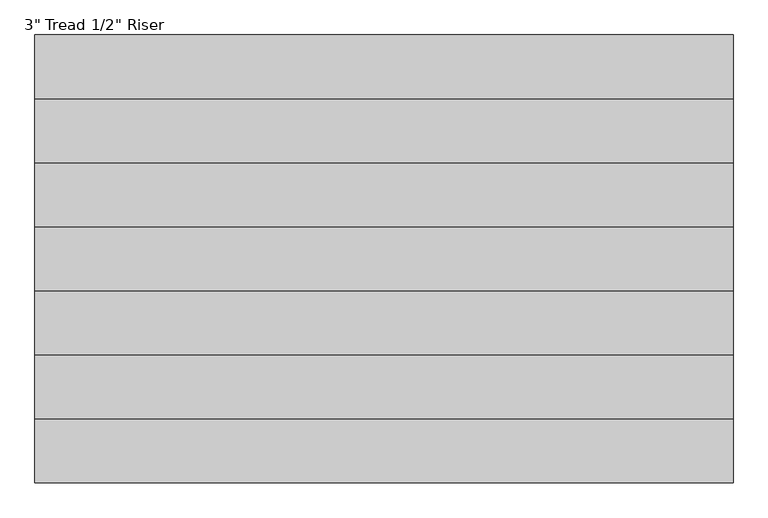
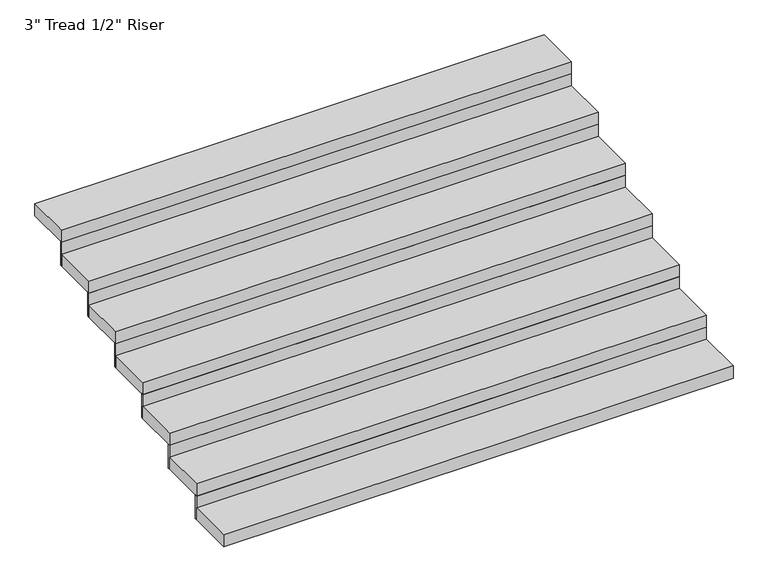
"""IFC4 building model written with IfcOpenShell, lengths in millimetres: stair flight geometry."""

from ifc_helpers import new_model, si_unit, frame, origin, place, context, project, spatial, polyline, outline, extrude, source, transform, mapped, element, save


def stair_flight_1baaeb33(model_context):
    return source(origin(), model_context, "Body", "SweptSolid", [
        extrude(outline(polyline([(23178.0025234, 188500.1414421), (26226.0025234, 188500.1414421), (26226.0025234, 188220.7414421), (23178.0025234, 188220.7414421), (23178.0025234, 188500.1414421)])), frame((0.0, 0.0, 293878.0), z_axis=(0.0, 0.0, 1.0), x_axis=(1.0, 0.0, 0.0)), (0.0, 0.0, 1.0), 76.2),
        extrude(outline(polyline([(26226.0025234, 188512.8414421), (26226.0025234, 188500.1414421), (23178.0025234, 188500.1414421), (23178.0025234, 188512.8414421), (26226.0025234, 188512.8414421)])), frame((0.0, 0.0, 293878.0), z_axis=(0.0, 0.0, 1.0), x_axis=(1.0, 0.0, 0.0)), (0.0, 0.0, 1.0), 151.3416667),
        extrude(outline(polyline([(23178.0025234, 188779.5414421), (26226.0025234, 188779.5414421), (26226.0025234, 188500.1414421), (23178.0025234, 188500.1414421), (23178.0025234, 188779.5414421)])), frame((0.0, 0.0, 294029.3416667), z_axis=(0.0, 0.0, 1.0), x_axis=(1.0, 0.0, 0.0)), (0.0, 0.0, 1.0), 76.2),
        extrude(outline(polyline([(26226.0025234, 188792.2414421), (26226.0025234, 188779.5414421), (23178.0025234, 188779.5414421), (23178.0025234, 188792.2414421), (26226.0025234, 188792.2414421)])), frame((0.0, 0.0, 294029.3416667), z_axis=(0.0, 0.0, 1.0), x_axis=(1.0, 0.0, 0.0)), (0.0, 0.0, 1.0), 151.3416667),
        extrude(outline(polyline([(23178.0025234, 189058.9414421), (26226.0025234, 189058.9414421), (26226.0025234, 188779.5414421), (23178.0025234, 188779.5414421), (23178.0025234, 189058.9414421)])), frame((0.0, 0.0, 294180.6833333), z_axis=(0.0, 0.0, 1.0), x_axis=(1.0, 0.0, 0.0)), (0.0, 0.0, 1.0), 76.2),
        extrude(outline(polyline([(26226.0025234, 189071.6414421), (26226.0025234, 189058.9414421), (23178.0025234, 189058.9414421), (23178.0025234, 189071.6414421), (26226.0025234, 189071.6414421)])), frame((0.0, 0.0, 294180.6833333), z_axis=(0.0, 0.0, 1.0), x_axis=(1.0, 0.0, 0.0)), (0.0, 0.0, 1.0), 151.3416667),
        extrude(outline(polyline([(23178.0025234, 189338.3414421), (26226.0025234, 189338.3414421), (26226.0025234, 189058.9414421), (23178.0025234, 189058.9414421), (23178.0025234, 189338.3414421)])), frame((0.0, 0.0, 294332.025), z_axis=(0.0, 0.0, 1.0), x_axis=(1.0, 0.0, 0.0)), (0.0, 0.0, 1.0), 76.2),
        extrude(outline(polyline([(26226.0025234, 189351.0414421), (26226.0025234, 189338.3414421), (23178.0025234, 189338.3414421), (23178.0025234, 189351.0414421), (26226.0025234, 189351.0414421)])), frame((0.0, 0.0, 294332.025), z_axis=(0.0, 0.0, 1.0), x_axis=(1.0, 0.0, 0.0)), (0.0, 0.0, 1.0), 151.3416667),
        extrude(outline(polyline([(23178.0025234, 189617.7414421), (26226.0025234, 189617.7414421), (26226.0025234, 189338.3414421), (23178.0025234, 189338.3414421), (23178.0025234, 189617.7414421)])), frame((0.0, 0.0, 294483.3666667), z_axis=(0.0, 0.0, 1.0), x_axis=(1.0, 0.0, 0.0)), (0.0, 0.0, 1.0), 76.2),
        extrude(outline(polyline([(26226.0025234, 189630.4414421), (26226.0025234, 189617.7414421), (23178.0025234, 189617.7414421), (23178.0025234, 189630.4414421), (26226.0025234, 189630.4414421)])), frame((0.0, 0.0, 294483.3666667), z_axis=(0.0, 0.0, 1.0), x_axis=(1.0, 0.0, 0.0)), (0.0, 0.0, 1.0), 151.3416667),
        extrude(outline(polyline([(23178.0025234, 189897.1414421), (26226.0025234, 189897.1414421), (26226.0025234, 189617.7414421), (23178.0025234, 189617.7414421), (23178.0025234, 189897.1414421)])), frame((0.0, 0.0, 294634.7083333), z_axis=(0.0, 0.0, 1.0), x_axis=(1.0, 0.0, 0.0)), (0.0, 0.0, 1.0), 76.2),
        extrude(outline(polyline([(26226.0025234, 189909.8414421), (26226.0025234, 189897.1414421), (23178.0025234, 189897.1414421), (23178.0025234, 189909.8414421), (26226.0025234, 189909.8414421)])), frame((0.0, 0.0, 294634.7083333), z_axis=(0.0, 0.0, 1.0), x_axis=(1.0, 0.0, 0.0)), (0.0, 0.0, 1.0), 151.3416667),
        extrude(outline(polyline([(23178.0025234, 190176.5414421), (26226.0025234, 190176.5414421), (26226.0025234, 189897.1414421), (23178.0025234, 189897.1414421), (23178.0025234, 190176.5414421)])), frame((0.0, 0.0, 294786.05), z_axis=(0.0, 0.0, 1.0), x_axis=(1.0, 0.0, 0.0)), (0.0, 0.0, 1.0), 76.2),
    ])


if __name__ == "__main__":
    model = new_model("IFC4")
    model_context = context("Model", 3, world=origin())
    ifc_project = project(units=[si_unit("LENGTHUNIT", "METRE", prefix="MILLI")], contexts=[model_context])
    site = spatial("IfcSite", under=ifc_project)
    building = spatial("IfcBuilding", under=site)
    placement = place(None, origin())
    stair_flight_shape = stair_flight_1baaeb33(model_context)
    element("IfcStairFlight", 1, ObjectType="3\" Tread 1/2\" Riser", at=placement, inside=building, context=model_context, shape_type="MappedRepresentation", body=[
        mapped(stair_flight_shape, transform((0.0, 0.0, 0.0), x_axis=(1.0, 0.0, 0.0), y_axis=(0.0, 1.0, 0.0), z_axis=(0.0, 0.0, 1.0))),
    ])
    save(model, "model.ifc")
